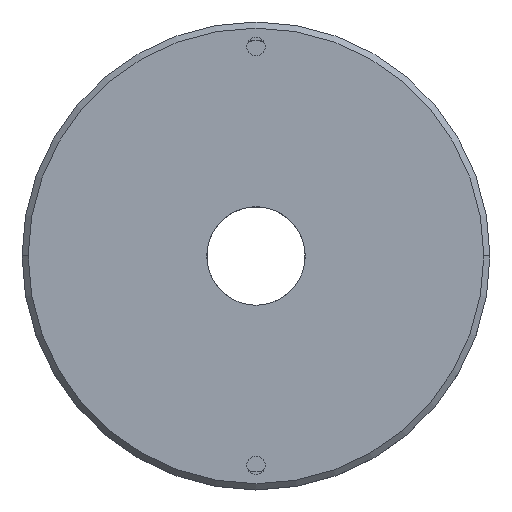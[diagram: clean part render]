
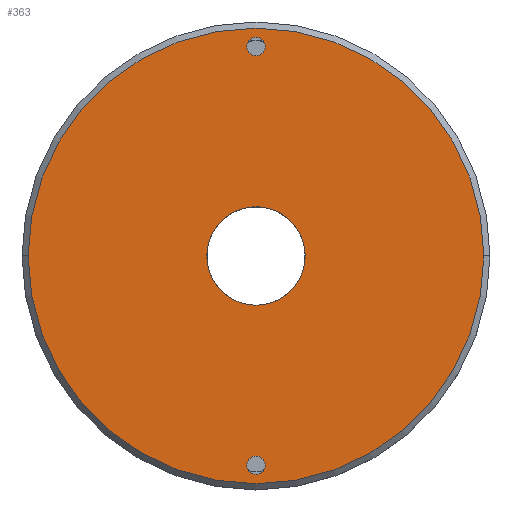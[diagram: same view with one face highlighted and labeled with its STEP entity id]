
A CAD part, top view. The second image highlights one B-rep face of the part: STEP entity #363.
In plain terms, the highlighted planar face has unit normal (0, 0, 1).
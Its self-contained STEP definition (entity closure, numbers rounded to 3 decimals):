
#34 = EDGE_CURVE ( 'NONE', #340, #765, #887, .T. ) ;
#41 = DIRECTION ( 'NONE',  ( 0., 0., 1. ) ) ;
#80 = CARTESIAN_POINT ( 'NONE',  ( 0.437, -15.251, 12. ) ) ;
#82 = AXIS2_PLACEMENT_3D ( 'NONE', #121, #1111, #338 ) ;
#86 = DIRECTION ( 'NONE',  ( 0., 0., 1. ) ) ;
#91 = VERTEX_POINT ( 'NONE', #220 ) ;
#121 = CARTESIAN_POINT ( 'NONE',  ( 0.437, 1.749, 12. ) ) ;
#126 = CARTESIAN_POINT ( 'NONE',  ( 0.437, 1.749, 12. ) ) ;
#136 = DIRECTION ( 'NONE',  ( 1., 0., 0. ) ) ;
#155 = AXIS2_PLACEMENT_3D ( 'NONE', #958, #1234, #464 ) ;
#170 = EDGE_CURVE ( 'NONE', #1262, #420, #758, .T. ) ;
#172 = CARTESIAN_POINT ( 'NONE',  ( 4.437, 1.749, 12. ) ) ;
#180 = ORIENTED_EDGE ( 'NONE', *, *, #170, .F. ) ;
#194 = DIRECTION ( 'NONE',  ( 0., 0., 1. ) ) ;
#220 = CARTESIAN_POINT ( 'NONE',  ( -0.313, 18.749, 12. ) ) ;
#223 = AXIS2_PLACEMENT_3D ( 'NONE', #126, #41, #136 ) ;
#249 = PLANE ( 'NONE',  #223 ) ;
#261 = CARTESIAN_POINT ( 'NONE',  ( 0.437, -15.251, 12. ) ) ;
#273 = DIRECTION ( 'NONE',  ( -1., 0., 0. ) ) ;
#275 = CIRCLE ( 'NONE', #622, 0.75 ) ;
#282 = CIRCLE ( 'NONE', #406, 0.75 ) ;
#287 = AXIS2_PLACEMENT_3D ( 'NONE', #1001, #352, #509 ) ;
#290 = EDGE_LOOP ( 'NONE', ( #934, #1173 ) ) ;
#326 = VERTEX_POINT ( 'NONE', #1031 ) ;
#338 = DIRECTION ( 'NONE',  ( 1., 0., 0. ) ) ;
#339 = CARTESIAN_POINT ( 'NONE',  ( -0.313, -15.251, 12. ) ) ;
#340 = VERTEX_POINT ( 'NONE', #832 ) ;
#352 = DIRECTION ( 'NONE',  ( 0., 0., 1. ) ) ;
#359 = VERTEX_POINT ( 'NONE', #339 ) ;
#363 = ADVANCED_FACE ( 'NONE', ( #662, #933, #1133, #439 ), #249, .T. ) ;
#369 = EDGE_CURVE ( 'NONE', #765, #340, #917, .T. ) ;
#406 = AXIS2_PLACEMENT_3D ( 'NONE', #1237, #852, #938 ) ;
#417 = DIRECTION ( 'NONE',  ( 1., 0., 0. ) ) ;
#420 = VERTEX_POINT ( 'NONE', #172 ) ;
#423 = EDGE_CURVE ( 'NONE', #326, #91, #275, .T. ) ;
#439 = FACE_BOUND ( 'NONE', #733, .T. ) ;
#464 = DIRECTION ( 'NONE',  ( 1., 0., 0. ) ) ;
#487 = DIRECTION ( 'NONE',  ( -1., 0., 0. ) ) ;
#509 = DIRECTION ( 'NONE',  ( 1., 0., 0. ) ) ;
#572 = CIRCLE ( 'NONE', #885, 4. ) ;
#583 = AXIS2_PLACEMENT_3D ( 'NONE', #80, #86, #487 ) ;
#622 = AXIS2_PLACEMENT_3D ( 'NONE', #849, #1007, #417 ) ;
#626 = EDGE_LOOP ( 'NONE', ( #951, #1153 ) ) ;
#662 = FACE_OUTER_BOUND ( 'NONE', #290, .T. ) ;
#696 = EDGE_LOOP ( 'NONE', ( #889, #1084 ) ) ;
#733 = EDGE_LOOP ( 'NONE', ( #1163, #180 ) ) ;
#758 = CIRCLE ( 'NONE', #287, 4. ) ;
#765 = VERTEX_POINT ( 'NONE', #1191 ) ;
#832 = CARTESIAN_POINT ( 'NONE',  ( 18.937, 1.749, 12. ) ) ;
#849 = CARTESIAN_POINT ( 'NONE',  ( 0.437, 18.749, 12. ) ) ;
#852 = DIRECTION ( 'NONE',  ( 0., 0., 1. ) ) ;
#885 = AXIS2_PLACEMENT_3D ( 'NONE', #1215, #1204, #1225 ) ;
#887 = CIRCLE ( 'NONE', #82, 18.5 ) ;
#889 = ORIENTED_EDGE ( 'NONE', *, *, #1068, .F. ) ;
#917 = CIRCLE ( 'NONE', #155, 18.5 ) ;
#933 = FACE_BOUND ( 'NONE', #696, .T. ) ;
#934 = ORIENTED_EDGE ( 'NONE', *, *, #369, .T. ) ;
#938 = DIRECTION ( 'NONE',  ( 1., 0., 0. ) ) ;
#951 = ORIENTED_EDGE ( 'NONE', *, *, #423, .F. ) ;
#958 = CARTESIAN_POINT ( 'NONE',  ( 0.437, 1.749, 12. ) ) ;
#969 = CARTESIAN_POINT ( 'NONE',  ( -3.563, 1.749, 12. ) ) ;
#978 = CARTESIAN_POINT ( 'NONE',  ( 1.187, -15.251, 12. ) ) ;
#1001 = CARTESIAN_POINT ( 'NONE',  ( 0.437, 1.749, 12. ) ) ;
#1007 = DIRECTION ( 'NONE',  ( 0., 0., 1. ) ) ;
#1018 = EDGE_CURVE ( 'NONE', #359, #1189, #1195, .T. ) ;
#1031 = CARTESIAN_POINT ( 'NONE',  ( 1.187, 18.749, 12. ) ) ;
#1068 = EDGE_CURVE ( 'NONE', #1189, #359, #1102, .T. ) ;
#1084 = ORIENTED_EDGE ( 'NONE', *, *, #1018, .F. ) ;
#1102 = CIRCLE ( 'NONE', #1155, 0.75 ) ;
#1111 = DIRECTION ( 'NONE',  ( 0., 0., 1. ) ) ;
#1133 = FACE_BOUND ( 'NONE', #626, .T. ) ;
#1146 = EDGE_CURVE ( 'NONE', #91, #326, #282, .T. ) ;
#1153 = ORIENTED_EDGE ( 'NONE', *, *, #1146, .F. ) ;
#1155 = AXIS2_PLACEMENT_3D ( 'NONE', #261, #194, #273 ) ;
#1163 = ORIENTED_EDGE ( 'NONE', *, *, #1232, .F. ) ;
#1173 = ORIENTED_EDGE ( 'NONE', *, *, #34, .T. ) ;
#1189 = VERTEX_POINT ( 'NONE', #978 ) ;
#1191 = CARTESIAN_POINT ( 'NONE',  ( -18.063, 1.749, 12. ) ) ;
#1195 = CIRCLE ( 'NONE', #583, 0.75 ) ;
#1204 = DIRECTION ( 'NONE',  ( 0., 0., 1. ) ) ;
#1215 = CARTESIAN_POINT ( 'NONE',  ( 0.437, 1.749, 12. ) ) ;
#1225 = DIRECTION ( 'NONE',  ( 1., 0., 0. ) ) ;
#1232 = EDGE_CURVE ( 'NONE', #420, #1262, #572, .T. ) ;
#1234 = DIRECTION ( 'NONE',  ( 0., 0., 1. ) ) ;
#1237 = CARTESIAN_POINT ( 'NONE',  ( 0.437, 18.749, 12. ) ) ;
#1262 = VERTEX_POINT ( 'NONE', #969 ) ;
